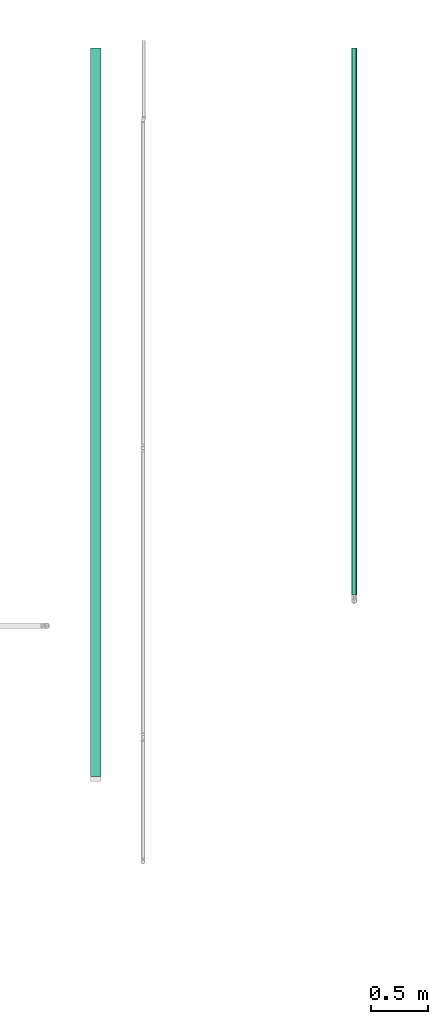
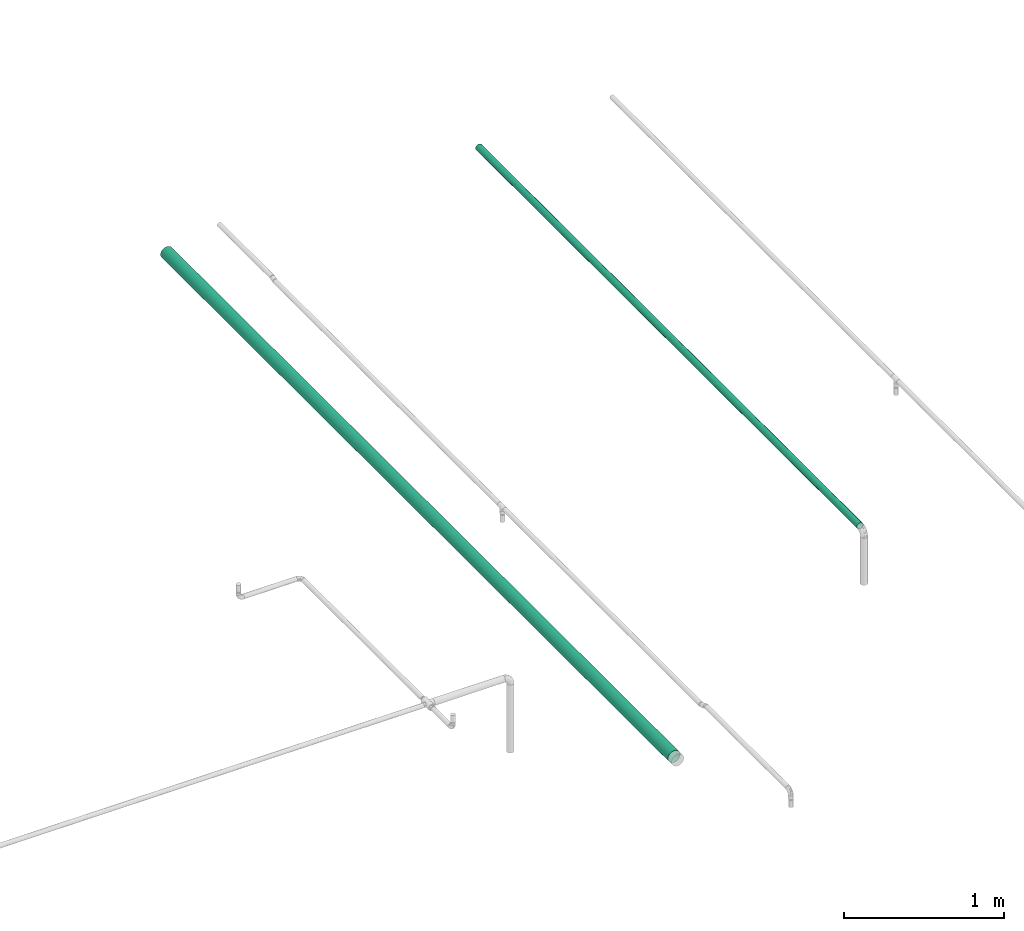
# One storey, part 25 of 32: 2 flow segments.
"""IFC2X3 building model written with IfcOpenShell, lengths in millimetres."""

import ifcopenshell
import ifcopenshell.guid

model = None  # the IFC model being written
_history = None  # IfcOwnerHistory: only IFC2X3 demands one
_inside = {}  # id of a spatial element -> (the spatial element, [elements in it])
_under = {}  # id of a project, library or spatial element -> (it, [spatial elements below it])
_declared = {}  # id of a project -> (the project, [libraries it declares])
_typed = {}  # id of a type object -> (the type object, [elements of that type])
_made_of = {}  # id of a material, layer set ... -> (it, [elements and type objects made of it])


def new_model(schema):
    """Start an empty IFC model of exactly this schema.

    Asked for "IFC4X3", IfcOpenShell would pick the latest addendum, in which some entities
    have other attributes; the version numbers below select the first issue.
    IFC2X3 requires an IfcOwnerHistory on every rooted entity: one is made here for all.
    """
    global model, _history
    if schema == "IFC4X3":
        model = ifcopenshell.file(schema_version=(4, 3, 0, 0))
    else:
        model = ifcopenshell.file(schema=schema)
    _inside.clear()
    _under.clear()
    _declared.clear()
    _typed.clear()
    _made_of.clear()
    _history = None
    if model.schema == "IFC2X3":
        org = make("IfcOrganization", Name="unknown")
        user = make(
            "IfcPersonAndOrganization",
            ThePerson=make("IfcPerson", FamilyName="unknown"),
            TheOrganization=org,
        )
        app = make(
            "IfcApplication",
            ApplicationDeveloper=org,
            Version="unknown",
            ApplicationFullName="unknown",
            ApplicationIdentifier="unknown",
        )
        _history = make(
            "IfcOwnerHistory",
            OwningUser=user,
            OwningApplication=app,
            ChangeAction="ADDED",
            CreationDate=0,
        )
    return model


def make(cls, **values):
    """One entity of the class cls with the attributes given. An attribute that is None is left unset."""
    return model.create_entity(
        cls, **{name: value for name, value in values.items() if value is not None}
    )


def entity(cls, *values):
    """Any entity or typed value of the class cls, its attributes in the order of the schema. None: left unset."""
    e = model.create_entity(cls)
    for i, value in enumerate(values):
        if value is not None:
            e[i] = value
    return e


def rooted(cls, **values):
    """An entity with a GlobalId (a new one), such as an element, a storey or a relation."""
    return make(cls, GlobalId=ifcopenshell.guid.new(), OwnerHistory=_history, **values)


def si_unit(unit_type, name, prefix=None):
    """IfcSIUnit, for example si_unit("LENGTHUNIT", "METRE", prefix="MILLI")."""
    return make("IfcSIUnit", UnitType=unit_type, Prefix=prefix, Name=name)


def converted_unit(unit_type, name, factor, base, dimensions=None, offset=None):
    """IfcConversionBasedUnit, such as the inch: factor (a typed value) times the base unit."""
    return make(
        "IfcConversionBasedUnit"
        if offset is None
        else "IfcConversionBasedUnitWithOffset",
        ConversionOffset=offset,
        Dimensions=None
        if dimensions is None
        else entity("IfcDimensionalExponents", *dimensions),
        UnitType=unit_type,
        Name=name,
        ConversionFactor=make(
            "IfcMeasureWithUnit", ValueComponent=factor, UnitComponent=base
        ),
    )


def derived_unit(unit_type, elements):
    """IfcDerivedUnit: a product of units, each with its exponent."""
    return make(
        "IfcDerivedUnit",
        Elements=[
            make("IfcDerivedUnitElement", Unit=unit, Exponent=power)
            for unit, power in elements
        ],
        UnitType=unit_type,
    )


def assignment(units):
    """IfcUnitAssignment: the units of a project."""
    return None if units is None else make("IfcUnitAssignment", Units=units)


def point(xyz):
    """IfcCartesianPoint."""
    return None if xyz is None else make("IfcCartesianPoint", Coordinates=xyz)


def direction(xyz):
    """IfcDirection."""
    return None if xyz is None else make("IfcDirection", DirectionRatios=xyz)


def frame(location, z_axis=None, x_axis=None):
    """IfcAxis2Placement3D, a coordinate frame: its origin and axes. An axis left out is left unset."""
    return make(
        "IfcAxis2Placement3D",
        Location=point(location),
        Axis=direction(z_axis),
        RefDirection=direction(x_axis),
    )


def place(relative_to, where):
    """IfcLocalPlacement: puts the frame where relative to a parent placement (None: the world)."""
    return make(
        "IfcLocalPlacement", PlacementRelTo=relative_to, RelativePlacement=where
    )


def context(
    kind, dimensions, precision=None, world=None, true_north=None, identifier=None
):
    """IfcGeometricRepresentationContext, for example the 3D "Model" context."""
    return make(
        "IfcGeometricRepresentationContext",
        ContextIdentifier=identifier,
        ContextType=kind,
        CoordinateSpaceDimension=dimensions,
        Precision=precision,
        WorldCoordinateSystem=world,
        TrueNorth=true_north,
    )


def subcontext(parent, identifier, kind, view, scale=None):
    """IfcGeometricRepresentationSubContext, for example "Body" below "Model"."""
    return make(
        "IfcGeometricRepresentationSubContext",
        ContextIdentifier=identifier,
        ContextType=kind,
        ParentContext=parent,
        TargetScale=scale,
        TargetView=view,
    )


def project(units=None, contexts=None):
    """IfcProject with its units and contexts."""
    return rooted(
        "IfcProject",
        Name="project",
        RepresentationContexts=contexts,
        UnitsInContext=assignment(units),
    )


def spatial(cls, under=None, at=None, **own):
    """A site, building, storey or space (cls), placed at a placement, below another one or the project."""
    s = rooted(cls, ObjectPlacement=at, **own)
    if under is not None:
        _under.setdefault(under.id(), (under, []))[1].append(s)
    return s


def faces_of(points, faces, orient=None, outer=None):
    """IfcFace entities. A face is a list of loops; a loop is a list of indices into points, from 0.

    orient and outer hold one flag for each loop. By default every Orientation is true, the
    first loop of a face is its IfcFaceOuterBound and the others are IfcFaceBound.
    """
    made = []
    for i, loops in enumerate(faces):
        bounds = []
        for j, loop in enumerate(loops):
            is_outer = j == 0 if outer is None else outer[i][j]
            bounds.append(
                make(
                    "IfcFaceOuterBound" if is_outer else "IfcFaceBound",
                    Bound=make("IfcPolyLoop", Polygon=[points[k] for k in loop]),
                    Orientation=True if orient is None else orient[i][j],
                )
            )
        made.append(make("IfcFace", Bounds=bounds))
    return made


def faceted_brep(points, faces, orient=None, outer=None, voids=None):
    """IfcFacetedBrep: a solid bounded by flat faces; with voids (closed shells), ...WithVoids."""
    shared = [point(p) for p in points]
    hull = make("IfcClosedShell", CfsFaces=faces_of(shared, faces, orient, outer))
    if voids is None:
        return make("IfcFacetedBrep", Outer=hull)
    return make(
        "IfcFacetedBrepWithVoids",
        Outer=hull,
        Voids=[
            make(cls, CfsFaces=faces_of(shared, fs, o, b)) for cls, fs, o, b in voids
        ],
    )


def shape(context_of_items, identifier, shape_type, items):
    """IfcShapeRepresentation: the items that make up one representation, for example the "Body"."""
    return make(
        "IfcShapeRepresentation",
        ContextOfItems=context_of_items,
        RepresentationIdentifier=identifier,
        RepresentationType=shape_type,
        Items=items,
    )


def made_of(thing, what):
    """Note that an element or type object is made of a material, layer set ...; save() writes the relation."""
    if what is not None:
        _made_of.setdefault(what.id(), (what, []))[1].append(thing)
    return thing


def type_object(cls, material=None, **own):
    """A type object (cls), such as IfcWallType, which elements share."""
    return made_of(rooted(cls, **own), material)


def element(
    cls,
    number,
    at=None,
    inside=None,
    cuts=None,
    type_object=None,
    material=None,
    context=None,
    identifier="Body",
    shape_type=None,
    held_by="IfcProductDefinitionShape",
    body=None,
    shapes=None,
    **own,
):
    """One element of the class cls, such as IfcWall. Its Tag is "e" and its number.

    at: its placement. inside: the storey or other place that contains it. cuts: it is an
    opening in that element (IfcRelVoidsElement). A single representation is given by context,
    identifier, shape_type and body (its items); several are given by shapes. held_by: the class
    of the entity that holds the representations. save() writes the other relations.
    """
    e = rooted(cls, Tag="e%d" % number, ObjectPlacement=at, **own)
    if body is not None:
        shapes = [shape(context, identifier, shape_type, body)]
    if shapes is not None:
        e.Representation = make(held_by, Representations=shapes)
    if inside is not None:
        _inside.setdefault(inside.id(), (inside, []))[1].append(e)
    if cuts is not None:
        rooted(
            "IfcRelVoidsElement", RelatingBuildingElement=cuts, RelatedOpeningElement=e
        )
    if type_object is not None:
        _typed.setdefault(type_object.id(), (type_object, []))[1].append(e)
    return made_of(e, material)


def aggregate(whole, parts):
    """IfcRelAggregates: a whole, such as a stair, and the parts it consists of."""
    return rooted("IfcRelAggregates", RelatingObject=whole, RelatedObjects=parts)


def save(model, path):
    """Write the relations noted so far, then the file.

    IfcRelAggregates (storeys below a building ...), IfcRelContainedInSpatialStructure (elements
    in a storey), IfcRelDefinesByType, IfcRelAssociatesMaterial and IfcRelDeclares: one each for
    every whole, place, type object, material and project.
    """
    for whole, parts in _under.values():
        aggregate(whole, parts)
    for where, things in _inside.values():
        rooted(
            "IfcRelContainedInSpatialStructure",
            RelatedElements=things,
            RelatingStructure=where,
        )
    for kind, things in _typed.values():
        rooted("IfcRelDefinesByType", RelatedObjects=things, RelatingType=kind)
    for what, things in _made_of.values():
        rooted("IfcRelAssociatesMaterial", RelatedObjects=things, RelatingMaterial=what)
    for by, libraries in _declared.values():
        rooted("IfcRelDeclares", RelatingContext=by, RelatedDefinitions=libraries)
    model.write(path)


model = new_model("IFC2X3")

# Units and contexts
model_context = context("Model", 3, precision=0.01, world=frame((0.0, 4.29681676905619e-09, 0.0)), true_north=direction((4.01073788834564e-13, 1.0)))
plan_context = context("Plan", 3, precision=0.01, world=frame((0.0, 4.29681676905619e-09, 0.0)), true_north=direction((4.01073788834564e-13, 1.0)))
body_context = subcontext(model_context, "Body", "Model", "MODEL_VIEW")
ifc_project = project(units=[converted_unit("PLANEANGLEUNIT", "DEGREE", entity("IfcPositiveLengthMeasure", 0.0174532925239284), si_unit("PLANEANGLEUNIT", "RADIAN"), dimensions=[0, 0, 0, 0, 0, 0, 0]), si_unit("AREAUNIT", "SQUARE_METRE"), si_unit("LENGTHUNIT", "METRE", prefix="MILLI"), si_unit("MASSUNIT", "GRAM", prefix="KILO"), si_unit("POWERUNIT", "WATT"), si_unit("PRESSUREUNIT", "PASCAL", prefix="KILO"), si_unit("FORCEUNIT", "NEWTON", prefix="KILO"), si_unit("ELECTRICVOLTAGEUNIT", "VOLT"), si_unit("ELECTRICCURRENTUNIT", "AMPERE"), si_unit("THERMODYNAMICTEMPERATUREUNIT", "DEGREE_CELSIUS"), si_unit("TIMEUNIT", "SECOND"), si_unit("VOLUMEUNIT", "CUBIC_METRE"), derived_unit("LINEARVELOCITYUNIT", [(si_unit("LENGTHUNIT", "METRE"), 1), (si_unit("TIMEUNIT", "SECOND"), -1)]), derived_unit("VOLUMETRICFLOWRATEUNIT", [(si_unit("VOLUMEUNIT", "CUBIC_METRE"), 1), (si_unit("TIMEUNIT", "SECOND"), -1)]), derived_unit("THERMALTRANSMITTANCEUNIT", [(si_unit("POWERUNIT", "WATT"), 1), (si_unit("THERMODYNAMICTEMPERATUREUNIT", "KELVIN"), -1), (si_unit("AREAUNIT", "SQUARE_METRE"), -1)]), derived_unit("SOUNDPRESSUREUNIT", [(si_unit("PRESSUREUNIT", "PASCAL"), 1)])], contexts=[model_context, plan_context])

# Site, building, storey
site_placement = place(None, frame((0.0, -4.29681676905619e-09, 0.0), z_axis=(0.0, 0.0, 1.0), x_axis=(1.0, 0.0, 0.0)))
site = spatial("IfcSite", under=ifc_project, at=site_placement, CompositionType="ELEMENT")
building_placement = place(site_placement, frame((0.0, 4.29681676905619e-09, 0.0), z_axis=(0.0, 0.0, 1.0), x_axis=(1.0, 0.0, 0.0)))
building = spatial("IfcBuilding", under=site, at=building_placement, Name="mc-building", CompositionType="ELEMENT")
storey_placement = place(building_placement, frame((0.0, 0.0, 205200.0), z_axis=(0.0, 0.0, 1.0), x_axis=(1.0, 0.0, 0.0)))
storey = spatial("IfcBuildingStorey", under=building, at=storey_placement, Name="Nivå D + 1,2 m", CompositionType="ELEMENT", Elevation=205200.0)

# Flow segments
pipe_segment_type = type_object("IfcPipeSegmentType", Name="Stålrør normaltykke", PredefinedType="RIGIDSEGMENT")
flow_segment_1_placement = place(storey_placement, frame((329287.41659, 461167.22069, 4392.43145999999), z_axis=(0.0, 0.0, 1.0), x_axis=(0.0, 1.0, 0.0)))
element("IfcFlowSegment", 1, at=flow_segment_1_placement, inside=storey, type_object=pipe_segment_type, Name="Stålrør normaltykke", context=body_context, shape_type="Brep", body=[
    faceted_brep([(6332.77930999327, 42.5, 0.0), (6332.77930999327, 41.8543295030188, -7.38004755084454), (0.0, 41.8543295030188, -7.38004755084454), (0.0, 42.5, 0.0), (6332.77930999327, 39.9369363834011, -14.535856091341), (0.0, 39.9369363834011, -14.535856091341), (6332.77930999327, 36.8060796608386, -21.25), (0.0, 36.8060796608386, -21.25), (6332.77930999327, 32.5568888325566, -27.3184734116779), (0.0, 32.5568888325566, -27.3184734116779), (6332.77930999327, 27.3184734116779, -32.5568888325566), (0.0, 27.3184734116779, -32.5568888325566), (6332.77930999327, 21.25, -36.8060796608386), (0.0, 21.25, -36.8060796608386), (6332.77930999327, 14.5358560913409, -39.9369363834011), (0.0, 14.5358560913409, -39.9369363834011), (6332.77930999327, 7.38004755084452, -41.8543295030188), (0.0, 7.38004755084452, -41.8543295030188), (6332.77930999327, -7.80712334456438e-15, -42.5), (0.0, -7.80712334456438e-15, -42.5), (6332.77930999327, -7.38004755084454, -41.8543295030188), (0.0, -7.38004755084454, -41.8543295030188), (6332.77930999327, -14.5358560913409, -39.9369363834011), (0.0, -14.5358560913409, -39.9369363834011), (6332.77930999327, -21.25, -36.8060796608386), (0.0, -21.25, -36.8060796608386), (6332.77930999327, -27.3184734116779, -32.5568888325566), (0.0, -27.3184734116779, -32.5568888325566), (6332.77930999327, -32.5568888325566, -27.3184734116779), (0.0, -32.5568888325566, -27.3184734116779), (6332.77930999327, -36.8060796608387, -21.25), (0.0, -36.8060796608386, -21.25), (6332.77930999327, -39.9369363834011, -14.5358560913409), (0.0, -39.9369363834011, -14.5358560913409), (6332.77930999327, -41.8543295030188, -7.38004755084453), (0.0, -41.8543295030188, -7.38004755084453), (6332.77930999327, -42.5, 5.20474889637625e-15), (0.0, -42.5, 5.20474889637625e-15), (6332.77930999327, -41.8543295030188, 7.38004755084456), (0.0, -41.8543295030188, 7.38004755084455), (6332.77930999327, -39.9369363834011, 14.5358560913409), (0.0, -39.9369363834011, 14.5358560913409), (6332.77930999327, -36.8060796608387, 21.25), (0.0, -36.8060796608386, 21.25), (6332.77930999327, -32.5568888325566, 27.3184734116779), (0.0, -32.5568888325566, 27.3184734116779), (6332.77930999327, -27.3184734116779, 32.5568888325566), (0.0, -27.3184734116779, 32.5568888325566), (6332.77930999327, -21.25, 36.8060796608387), (0.0, -21.25, 36.8060796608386), (6332.77930999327, -14.5358560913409, 39.9369363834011), (0.0, -14.5358560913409, 39.9369363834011), (6332.77930999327, -7.38004755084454, 41.8543295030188), (0.0, -7.38004755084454, 41.8543295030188), (6332.77930999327, 2.60237444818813e-15, 42.5), (0.0, 2.60237444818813e-15, 42.5), (6332.77930999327, 7.38004755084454, 41.8543295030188), (0.0, 7.38004755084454, 41.8543295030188), (6332.77930999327, 14.5358560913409, 39.9369363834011), (0.0, 14.5358560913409, 39.9369363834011), (6332.77930999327, 21.25, 36.8060796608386), (0.0, 21.25, 36.8060796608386), (6332.77930999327, 27.3184734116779, 32.5568888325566), (0.0, 27.3184734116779, 32.5568888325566), (6332.77930999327, 32.5568888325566, 27.3184734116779), (0.0, 32.5568888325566, 27.3184734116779), (6332.77930999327, 36.8060796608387, 21.25), (0.0, 36.8060796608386, 21.25), (6332.77930999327, 39.9369363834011, 14.5358560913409), (0.0, 39.9369363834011, 14.5358560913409), (6332.77930999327, 41.8543295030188, 7.38004755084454), (0.0, 41.8543295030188, 7.38004755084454), (6332.77930999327, 43.8239450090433, -7.7273439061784), (6332.77930999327, 44.5, 0.0), (0.0, 44.5, 0.0), (0.0, 43.8239450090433, -7.7273439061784), (6332.77930999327, 43.8239450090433, 7.7273439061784), (0.0, 43.8239450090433, 7.7273439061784), (6332.77930999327, 41.8163216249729, 15.2198963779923), (0.0, 41.8163216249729, 15.2198963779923), (6332.77930999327, 38.5381304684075, 22.25), (0.0, 38.5381304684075, 22.25), (6332.77930999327, 34.0889777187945, 28.604048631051), (0.0, 34.0889777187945, 28.604048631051), (6332.77930999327, 28.604048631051, 34.0889777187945), (0.0, 28.604048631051, 34.0889777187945), (6332.77930999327, 22.25, 38.5381304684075), (0.0, 22.25, 38.5381304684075), (6332.77930999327, 15.2198963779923, 41.8163216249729), (0.0, 15.2198963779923, 41.8163216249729), (6332.77930999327, 7.7273439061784, 43.8239450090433), (0.0, 7.7273439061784, 43.8239450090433), (6332.77930999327, 2.72483912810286e-15, 44.5), (0.0, 2.72483912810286e-15, 44.5), (6332.77930999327, -7.7273439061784, 43.8239450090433), (0.0, -7.7273439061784, 43.8239450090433), (6332.77930999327, -15.2198963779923, 41.8163216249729), (0.0, -15.2198963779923, 41.8163216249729), (6332.77930999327, -22.25, 38.5381304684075), (0.0, -22.25, 38.5381304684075), (6332.77930999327, -28.604048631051, 34.0889777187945), (0.0, -28.604048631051, 34.0889777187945), (6332.77930999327, -34.0889777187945, 28.604048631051), (0.0, -34.0889777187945, 28.604048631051), (6332.77930999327, -38.5381304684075, 22.25), (0.0, -38.5381304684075, 22.25), (6332.77930999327, -41.8163216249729, 15.2198963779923), (0.0, -41.8163216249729, 15.2198963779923), (6332.77930999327, -43.8239450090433, 7.72734390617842), (0.0, -43.8239450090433, 7.72734390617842), (6332.77930999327, -44.5, 5.44967825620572e-15), (0.0, -44.5, 5.44967825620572e-15), (6332.77930999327, -43.8239450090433, -7.72734390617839), (0.0, -43.8239450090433, -7.72734390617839), (6332.77930999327, -41.8163216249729, -15.2198963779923), (0.0, -41.8163216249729, -15.2198963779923), (6332.77930999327, -38.5381304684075, -22.25), (0.0, -38.5381304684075, -22.25), (6332.77930999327, -34.0889777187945, -28.604048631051), (0.0, -34.0889777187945, -28.604048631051), (6332.77930999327, -28.604048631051, -34.0889777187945), (0.0, -28.604048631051, -34.0889777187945), (6332.77930999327, -22.25, -38.5381304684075), (0.0, -22.25, -38.5381304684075), (6332.77930999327, -15.2198963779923, -41.8163216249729), (0.0, -15.2198963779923, -41.8163216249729), (6332.77930999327, -7.7273439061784, -43.8239450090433), (0.0, -7.7273439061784, -43.8239450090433), (6332.77930999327, -8.17451738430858e-15, -44.5), (0.0, -8.17451738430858e-15, -44.5), (6332.77930999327, 7.72734390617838, -43.8239450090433), (0.0, 7.72734390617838, -43.8239450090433), (6332.77930999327, 15.2198963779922, -41.8163216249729), (0.0, 15.2198963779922, -41.8163216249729), (6332.77930999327, 22.25, -38.5381304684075), (0.0, 22.25, -38.5381304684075), (6332.77930999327, 28.604048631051, -34.0889777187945), (0.0, 28.604048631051, -34.0889777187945), (6332.77930999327, 34.0889777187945, -28.604048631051), (0.0, 34.0889777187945, -28.604048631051), (6332.77930999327, 38.5381304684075, -22.25), (0.0, 38.5381304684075, -22.25), (6332.77930999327, 41.8163216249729, -15.2198963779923), (0.0, 41.8163216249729, -15.2198963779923)], [[[0, 1, 2, 3]], [[1, 4, 5, 2]], [[4, 6, 7, 5]], [[6, 8, 9, 7]], [[8, 10, 11, 9]], [[10, 12, 13, 11]], [[12, 14, 15, 13]], [[14, 16, 17, 15]], [[16, 18, 19, 17]], [[18, 20, 21, 19]], [[20, 22, 23, 21]], [[22, 24, 25, 23]], [[24, 26, 27, 25]], [[26, 28, 29, 27]], [[28, 30, 31, 29]], [[30, 32, 33, 31]], [[32, 34, 35, 33]], [[34, 36, 37, 35]], [[36, 38, 39, 37]], [[38, 40, 41, 39]], [[40, 42, 43, 41]], [[42, 44, 45, 43]], [[44, 46, 47, 45]], [[46, 48, 49, 47]], [[48, 50, 51, 49]], [[50, 52, 53, 51]], [[52, 54, 55, 53]], [[54, 56, 57, 55]], [[56, 58, 59, 57]], [[58, 60, 61, 59]], [[60, 62, 63, 61]], [[62, 64, 65, 63]], [[64, 66, 67, 65]], [[66, 68, 69, 67]], [[68, 70, 71, 69]], [[70, 0, 3, 71]], [[72, 73, 74, 75]], [[73, 76, 77, 74]], [[76, 78, 79, 77]], [[78, 80, 81, 79]], [[80, 82, 83, 81]], [[82, 84, 85, 83]], [[84, 86, 87, 85]], [[86, 88, 89, 87]], [[88, 90, 91, 89]], [[90, 92, 93, 91]], [[92, 94, 95, 93]], [[94, 96, 97, 95]], [[96, 98, 99, 97]], [[98, 100, 101, 99]], [[100, 102, 103, 101]], [[102, 104, 105, 103]], [[104, 106, 107, 105]], [[106, 108, 109, 107]], [[108, 110, 111, 109]], [[110, 112, 113, 111]], [[112, 114, 115, 113]], [[114, 116, 117, 115]], [[116, 118, 119, 117]], [[118, 120, 121, 119]], [[120, 122, 123, 121]], [[122, 124, 125, 123]], [[124, 126, 127, 125]], [[126, 128, 129, 127]], [[128, 130, 131, 129]], [[130, 132, 133, 131]], [[132, 134, 135, 133]], [[134, 136, 137, 135]], [[136, 138, 139, 137]], [[138, 140, 141, 139]], [[140, 142, 143, 141]], [[142, 72, 75, 143]], [[75, 74, 77, 79, 81, 83, 85, 87, 89, 91, 93, 95, 97, 99, 101, 103, 105, 107, 109, 111, 113, 115, 117, 119, 121, 123, 125, 127, 129, 131, 133, 135, 137, 139, 141, 143], [3, 2, 5, 7, 9, 11, 13, 15, 17, 19, 21, 23, 25, 27, 29, 31, 33, 35, 37, 39, 41, 43, 45, 47, 49, 51, 53, 55, 57, 59, 61, 63, 65, 67, 69, 71]], [[142, 140, 138, 136, 134, 132, 130, 128, 126, 124, 122, 120, 118, 116, 114, 112, 110, 108, 106, 104, 102, 100, 98, 96, 94, 92, 90, 88, 86, 84, 82, 80, 78, 76, 73, 72], [70, 68, 66, 64, 62, 60, 58, 56, 54, 52, 50, 48, 46, 44, 42, 40, 38, 36, 34, 32, 30, 28, 26, 24, 22, 20, 18, 16, 14, 12, 10, 8, 6, 4, 1, 0]]], orient=[[False], [False], [False], [False], [False], [False], [False], [False], [False], [False], [False], [False], [False], [False], [False], [False], [False], [False], [False], [False], [False], [False], [False], [False], [False], [False], [False], [False], [False], [False], [False], [False], [False], [False], [False], [False], [False], [False], [False], [False], [False], [False], [False], [False], [False], [False], [False], [False], [False], [False], [False], [False], [False], [False], [False], [False], [False], [False], [False], [False], [False], [False], [False], [False], [False], [False], [False], [False], [False], [False], [False], [False], [False, False], [False, False]]),
])
flow_segment_2_placement = place(storey_placement, frame((331536.30913, 462742.0706, 4407.43145999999), z_axis=(0.0, 0.0, 1.0), x_axis=(0.0, 1.0, 0.0)))
element("IfcFlowSegment", 2, at=flow_segment_2_placement, inside=storey, type_object=pipe_segment_type, Name="Stålrør normaltykke", context=body_context, shape_type="Brep", body=[
    faceted_brep([(4757.92939999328, 22.1, 0.0), (4757.92939999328, 21.7642513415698, -3.83762472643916), (0.0, 21.7642513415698, -3.83762472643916), (0.0, 22.1, 0.0), (4757.92939999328, 20.7672069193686, -7.55864516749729), (0.0, 20.7672069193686, -7.5586451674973), (4757.92939999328, 19.1391614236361, -11.05), (0.0, 19.1391614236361, -11.05), (4757.92939999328, 16.9295821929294, -14.2056061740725), (0.0, 16.9295821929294, -14.2056061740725), (4757.92939999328, 14.2056061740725, -16.9295821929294), (0.0, 14.2056061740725, -16.9295821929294), (4757.92939999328, 11.05, -19.1391614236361), (0.0, 11.05, -19.1391614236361), (4757.92939999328, 7.55864516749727, -20.7672069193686), (0.0, 7.55864516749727, -20.7672069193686), (4757.92939999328, 3.83762472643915, -21.7642513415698), (0.0, 3.83762472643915, -21.7642513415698), (4757.92939999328, -4.05970413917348e-15, -22.1), (0.0, -4.05970413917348e-15, -22.1), (4757.92939999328, -3.83762472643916, -21.7642513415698), (0.0, -3.83762472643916, -21.7642513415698), (4757.92939999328, -7.55864516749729, -20.7672069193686), (0.0, -7.55864516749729, -20.7672069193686), (4757.92939999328, -11.05, -19.1391614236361), (0.0, -11.05, -19.1391614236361), (4757.92939999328, -14.2056061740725, -16.9295821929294), (0.0, -14.2056061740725, -16.9295821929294), (4757.92939999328, -16.9295821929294, -14.2056061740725), (0.0, -16.9295821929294, -14.2056061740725), (4757.92939999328, -19.1391614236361, -11.05), (0.0, -19.1391614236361, -11.05), (4757.92939999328, -20.7672069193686, -7.55864516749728), (0.0, -20.7672069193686, -7.55864516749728), (4757.92939999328, -21.7642513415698, -3.83762472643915), (0.0, -21.7642513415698, -3.83762472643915), (4757.92939999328, -22.1, 2.70646942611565e-15), (0.0, -22.1, 2.70646942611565e-15), (4757.92939999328, -21.7642513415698, 3.83762472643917), (0.0, -21.7642513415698, 3.83762472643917), (4757.92939999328, -20.7672069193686, 7.55864516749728), (0.0, -20.7672069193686, 7.55864516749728), (4757.92939999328, -19.1391614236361, 11.05), (0.0, -19.1391614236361, 11.05), (4757.92939999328, -16.9295821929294, 14.2056061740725), (0.0, -16.9295821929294, 14.2056061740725), (4757.92939999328, -14.2056061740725, 16.9295821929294), (0.0, -14.2056061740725, 16.9295821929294), (4757.92939999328, -11.05, 19.1391614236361), (0.0, -11.05, 19.1391614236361), (4757.92939999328, -7.55864516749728, 20.7672069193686), (0.0, -7.55864516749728, 20.7672069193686), (4757.92939999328, -3.83762472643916, 21.7642513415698), (0.0, -3.83762472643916, 21.7642513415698), (4757.92939999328, 1.35323471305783e-15, 22.1), (0.0, 1.35323471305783e-15, 22.1), (4757.92939999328, 3.83762472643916, 21.7642513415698), (0.0, 3.83762472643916, 21.7642513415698), (4757.92939999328, 7.55864516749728, 20.7672069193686), (0.0, 7.55864516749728, 20.7672069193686), (4757.92939999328, 11.05, 19.1391614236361), (0.0, 11.05, 19.1391614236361), (4757.92939999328, 14.2056061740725, 16.9295821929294), (0.0, 14.2056061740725, 16.9295821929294), (4757.92939999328, 16.9295821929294, 14.2056061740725), (0.0, 16.9295821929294, 14.2056061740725), (4757.92939999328, 19.1391614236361, 11.05), (0.0, 19.1391614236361, 11.05), (4757.92939999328, 20.7672069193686, 7.55864516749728), (0.0, 20.7672069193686, 7.55864516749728), (4757.92939999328, 21.7642513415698, 3.83762472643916), (0.0, 21.7642513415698, 3.83762472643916), (4757.92939999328, 23.7338668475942, -4.18492108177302), (4757.92939999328, 24.1, 0.0), (0.0, 24.1, 0.0), (0.0, 23.7338668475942, -4.18492108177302), (4757.92939999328, 23.7338668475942, 4.18492108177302), (0.0, 23.7338668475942, 4.18492108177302), (4757.92939999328, 22.6465921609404, 8.24268545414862), (0.0, 22.6465921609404, 8.24268545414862), (4757.92939999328, 20.871212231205, 12.05), (0.0, 20.871212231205, 12.05), (4757.92939999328, 18.4616710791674, 15.4911813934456), (0.0, 18.4616710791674, 15.4911813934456), (4757.92939999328, 15.4911813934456, 18.4616710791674), (0.0, 15.4911813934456, 18.4616710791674), (4757.92939999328, 12.05, 20.871212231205), (0.0, 12.05, 20.871212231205), (4757.92939999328, 8.24268545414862, 22.6465921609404), (0.0, 8.24268545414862, 22.6465921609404), (4757.92939999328, 4.18492108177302, 23.7338668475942), (0.0, 4.18492108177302, 23.7338668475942), (4757.92939999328, 1.47569939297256e-15, 24.1), (0.0, 1.47569939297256e-15, 24.1), (4757.92939999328, -4.18492108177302, 23.7338668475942), (0.0, -4.18492108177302, 23.7338668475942), (4757.92939999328, -8.24268545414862, 22.6465921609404), (0.0, -8.24268545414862, 22.6465921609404), (4757.92939999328, -12.05, 20.871212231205), (0.0, -12.05, 20.871212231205), (4757.92939999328, -15.4911813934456, 18.4616710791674), (0.0, -15.4911813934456, 18.4616710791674), (4757.92939999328, -18.4616710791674, 15.4911813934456), (0.0, -18.4616710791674, 15.4911813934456), (4757.92939999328, -20.871212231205, 12.05), (0.0, -20.871212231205, 12.05), (4757.92939999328, -22.6465921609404, 8.24268545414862), (0.0, -22.6465921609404, 8.24268545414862), (4757.92939999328, -23.7338668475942, 4.18492108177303), (0.0, -23.7338668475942, 4.18492108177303), (4757.92939999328, -24.1, 2.95139878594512e-15), (0.0, -24.1, 2.95139878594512e-15), (4757.92939999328, -23.7338668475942, -4.18492108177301), (0.0, -23.7338668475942, -4.18492108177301), (4757.92939999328, -22.6465921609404, -8.24268545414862), (0.0, -22.6465921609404, -8.24268545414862), (4757.92939999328, -20.871212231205, -12.05), (0.0, -20.871212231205, -12.05), (4757.92939999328, -18.4616710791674, -15.4911813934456), (0.0, -18.4616710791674, -15.4911813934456), (4757.92939999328, -15.4911813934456, -18.4616710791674), (0.0, -15.4911813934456, -18.4616710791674), (4757.92939999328, -12.05, -20.871212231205), (0.0, -12.05, -20.871212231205), (4757.92939999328, -8.24268545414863, -22.6465921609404), (0.0, -8.24268545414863, -22.6465921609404), (4757.92939999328, -4.18492108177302, -23.7338668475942), (0.0, -4.18492108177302, -23.7338668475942), (4757.92939999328, -4.42709817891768e-15, -24.1), (0.0, -4.42709817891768e-15, -24.1), (4757.92939999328, 4.18492108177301, -23.7338668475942), (0.0, 4.18492108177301, -23.7338668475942), (4757.92939999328, 8.2426854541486, -22.6465921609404), (0.0, 8.2426854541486, -22.6465921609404), (4757.92939999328, 12.05, -20.871212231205), (0.0, 12.05, -20.871212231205), (4757.92939999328, 15.4911813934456, -18.4616710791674), (0.0, 15.4911813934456, -18.4616710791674), (4757.92939999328, 18.4616710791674, -15.4911813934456), (0.0, 18.4616710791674, -15.4911813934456), (4757.92939999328, 20.871212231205, -12.05), (0.0, 20.871212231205, -12.05), (4757.92939999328, 22.6465921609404, -8.24268545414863), (0.0, 22.6465921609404, -8.24268545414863)], [[[0, 1, 2, 3]], [[1, 4, 5, 2]], [[4, 6, 7, 5]], [[6, 8, 9, 7]], [[8, 10, 11, 9]], [[10, 12, 13, 11]], [[12, 14, 15, 13]], [[14, 16, 17, 15]], [[16, 18, 19, 17]], [[18, 20, 21, 19]], [[20, 22, 23, 21]], [[22, 24, 25, 23]], [[24, 26, 27, 25]], [[26, 28, 29, 27]], [[28, 30, 31, 29]], [[30, 32, 33, 31]], [[32, 34, 35, 33]], [[34, 36, 37, 35]], [[36, 38, 39, 37]], [[38, 40, 41, 39]], [[40, 42, 43, 41]], [[42, 44, 45, 43]], [[44, 46, 47, 45]], [[46, 48, 49, 47]], [[48, 50, 51, 49]], [[50, 52, 53, 51]], [[52, 54, 55, 53]], [[54, 56, 57, 55]], [[56, 58, 59, 57]], [[58, 60, 61, 59]], [[60, 62, 63, 61]], [[62, 64, 65, 63]], [[64, 66, 67, 65]], [[66, 68, 69, 67]], [[68, 70, 71, 69]], [[70, 0, 3, 71]], [[72, 73, 74, 75]], [[73, 76, 77, 74]], [[76, 78, 79, 77]], [[78, 80, 81, 79]], [[80, 82, 83, 81]], [[82, 84, 85, 83]], [[84, 86, 87, 85]], [[86, 88, 89, 87]], [[88, 90, 91, 89]], [[90, 92, 93, 91]], [[92, 94, 95, 93]], [[94, 96, 97, 95]], [[96, 98, 99, 97]], [[98, 100, 101, 99]], [[100, 102, 103, 101]], [[102, 104, 105, 103]], [[104, 106, 107, 105]], [[106, 108, 109, 107]], [[108, 110, 111, 109]], [[110, 112, 113, 111]], [[112, 114, 115, 113]], [[114, 116, 117, 115]], [[116, 118, 119, 117]], [[118, 120, 121, 119]], [[120, 122, 123, 121]], [[122, 124, 125, 123]], [[124, 126, 127, 125]], [[126, 128, 129, 127]], [[128, 130, 131, 129]], [[130, 132, 133, 131]], [[132, 134, 135, 133]], [[134, 136, 137, 135]], [[136, 138, 139, 137]], [[138, 140, 141, 139]], [[140, 142, 143, 141]], [[142, 72, 75, 143]], [[75, 74, 77, 79, 81, 83, 85, 87, 89, 91, 93, 95, 97, 99, 101, 103, 105, 107, 109, 111, 113, 115, 117, 119, 121, 123, 125, 127, 129, 131, 133, 135, 137, 139, 141, 143], [3, 2, 5, 7, 9, 11, 13, 15, 17, 19, 21, 23, 25, 27, 29, 31, 33, 35, 37, 39, 41, 43, 45, 47, 49, 51, 53, 55, 57, 59, 61, 63, 65, 67, 69, 71]], [[142, 140, 138, 136, 134, 132, 130, 128, 126, 124, 122, 120, 118, 116, 114, 112, 110, 108, 106, 104, 102, 100, 98, 96, 94, 92, 90, 88, 86, 84, 82, 80, 78, 76, 73, 72], [70, 68, 66, 64, 62, 60, 58, 56, 54, 52, 50, 48, 46, 44, 42, 40, 38, 36, 34, 32, 30, 28, 26, 24, 22, 20, 18, 16, 14, 12, 10, 8, 6, 4, 1, 0]]], orient=[[False], [False], [False], [False], [False], [False], [False], [False], [False], [False], [False], [False], [False], [False], [False], [False], [False], [False], [False], [False], [False], [False], [False], [False], [False], [False], [False], [False], [False], [False], [False], [False], [False], [False], [False], [False], [False], [False], [False], [False], [False], [False], [False], [False], [False], [False], [False], [False], [False], [False], [False], [False], [False], [False], [False], [False], [False], [False], [False], [False], [False], [False], [False], [False], [False], [False], [False], [False], [False], [False], [False], [False], [False, False], [False, False]]),
])

save(model, "model.ifc")
